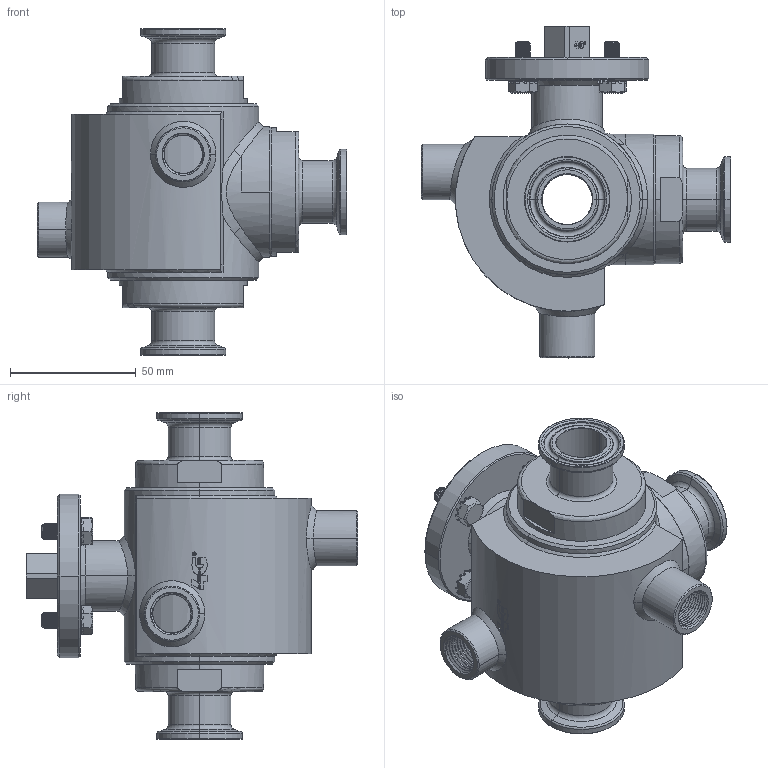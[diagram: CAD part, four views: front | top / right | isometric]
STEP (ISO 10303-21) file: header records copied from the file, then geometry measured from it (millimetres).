
FILE_DESCRIPTION((''),'2;1');
FILE_NAME('303030C6201F_SW0001','2025-01-31T15:20:43',('tecnico2'),('CDM Tecnoconsulting'),'CREO PARAMETRIC BY PTC INC, 2024063','CREO PARAMETRIC BY PTC INC, 2024063','');
FILE_SCHEMA(('CONFIG_CONTROL_DESIGN','SHAPE_APPEARANCE_LAYERS_GROUPS'));
Products named in the file (1): 303030C6201F_SW0001
Bounding box: 123 x 132 x 130.01 mm (x, y, z)
Volume: 301847.5 mm3; surface area: 106727 mm2
Topology: 1 solids, 1 shells, 1919 faces, 5242 edges, 3299 vertices
Faces by surface type: plane 751, cylinder 495, cone 207, extrusion 167, bspline 163, torus 134, sphere 2
Entity records: 145429 total; most frequent: CARTESIAN_POINT 83833, ORIENTED_EDGE 10464, DIRECTION 7791, PRESENTATION_STYLE_ASSIGNMENT 5327, STYLED_ITEM 5233, CURVE_STYLE 5232, EDGE_CURVE 5232, VERTEX_POINT 3299
